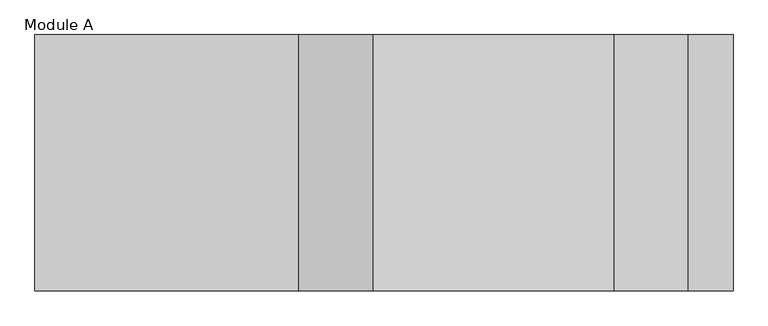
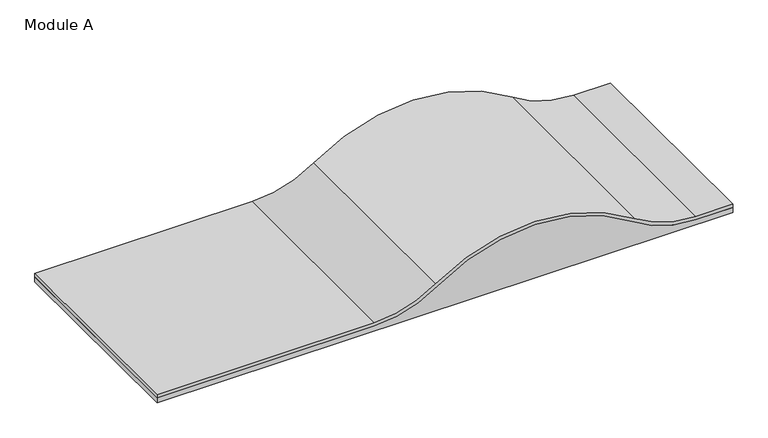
"""IFC4 building model written with IfcOpenShell, lengths in millimetres: proxy geometry, Spinneybeck_Wave : Module A."""

from ifc_helpers import new_model, si_unit, point, frame, frame_2d, origin, place, context, project, spatial, polyline, circle_curve, trimmed, segment, composite_curve, outline, extrude, source, transform, mapped, element, save


def module_a_00f8a6ba(model_context):
    return source(origin(), model_context, "Body", "SweptSolid", [
        extrude(outline(composite_curve([segment(polyline([(16.3710938, -547.37), (10.0210938, -547.37), (10.0210937, -134.4593722)]), True, "CONTINUOUS"), segment(trimmed(circle_curve(frame_2d((219.5710938, -134.4593722)), 209.55), [point((10.0210937, -134.4593722))], [point((48.2227491, -13.8320648))], False, "CARTESIAN"), True, "CONTINUOUS"), segment(trimmed(circle_curve(frame_2d((-214.9662069, 171.45)), 321.8662301), [point((48.2227491, -13.8320648))], [point((48.2227491, 356.7320648))], True, "CARTESIAN"), True, "CONTINUOUS"), segment(trimmed(circle_curve(frame_2d((219.5710938, 477.3593722)), 209.55), [point((48.2227491, 356.7320648))], [point((10.0210938, 477.3593722))], False, "CARTESIAN"), True, "CONTINUOUS"), segment(polyline([(10.0210938, 477.3593722), (10.0210938, 547.37), (16.3710938, 547.37), (16.3710938, 477.3593722)]), True, "CONTINUOUS"), segment(trimmed(circle_curve(frame_2d((219.5710938, 477.3593722)), 203.2), [point((16.3710938, 477.3593722))], [point((53.4151232, 360.3874377))], True, "CARTESIAN"), True, "CONTINUOUS"), segment(trimmed(circle_curve(frame_2d((-214.9662069, 171.45)), 328.2162301), [point((53.4151232, 360.3874377))], [point((53.4151232, -17.4874377))], False, "CARTESIAN"), True, "CONTINUOUS"), segment(trimmed(circle_curve(frame_2d((219.5710938, -134.4593722)), 203.2), [point((53.4151232, -17.4874377))], [point((16.3710938, -134.4593722))], True, "CARTESIAN"), True, "CONTINUOUS"), segment(polyline([(16.3710938, -134.4593722), (16.3710938, -547.37)]), True, "CONTINUOUS")], self_intersect=False)), frame((0.0, -201.0667969, 0.0), z_axis=(0.0, 1.0, 0.0), x_axis=(0.0, 0.0, 1.0)), (0.0, 0.0, 1.0), 402.1335938),
        extrude(outline(composite_curve([segment(trimmed(circle_curve(frame_2d((-214.9662069, 171.45)), 321.8662301), [point((48.2227491, 356.7320648))], [point((48.2227491, -13.8320648))], False, "CARTESIAN"), True, "CONTINUOUS"), segment(trimmed(circle_curve(frame_2d((219.5710938, -134.4593722)), 209.55), [point((48.2227491, -13.8320648))], [point((10.0210938, -134.4593722))], True, "CARTESIAN"), True, "CONTINUOUS"), segment(polyline([(10.0210938, -134.4593722), (10.0210937, -547.37), (0.0, -547.37), (0.0, 547.37), (10.0210938, 547.37), (10.0210938, 477.3593722)]), True, "CONTINUOUS"), segment(trimmed(circle_curve(frame_2d((219.5710938, 477.3593722)), 209.55), [point((10.0210938, 477.3593722))], [point((48.2227491, 356.7320648))], True, "CARTESIAN"), True, "CONTINUOUS")], self_intersect=False)), frame((0.0, -201.0667969, 0.0), z_axis=(0.0, 1.0, 0.0), x_axis=(0.0, 0.0, 1.0)), (0.0, 0.0, 1.0), 402.1335938),
    ])


if __name__ == "__main__":
    model = new_model("IFC4")
    model_context = context("Model", 3, world=origin())
    ifc_project = project(units=[si_unit("LENGTHUNIT", "METRE", prefix="MILLI")], contexts=[model_context])
    site = spatial("IfcSite", under=ifc_project)
    building = spatial("IfcBuilding", under=site)
    placement = place(None, origin())
    module_a_shape = module_a_00f8a6ba(model_context)
    element("IfcBuildingElementProxy", 1, Name="Spinneybeck_Wave : Module A", ObjectType="Spinneybeck_Wave : Module A", at=placement, inside=building, context=model_context, shape_type="MappedRepresentation", body=[
        mapped(module_a_shape, transform((0.0, 0.0, 0.0), x_axis=(1.0, 0.0, 0.0), y_axis=(0.0, 1.0, 0.0), z_axis=(0.0, 0.0, 1.0))),
    ])
    save(model, "model.ifc")
